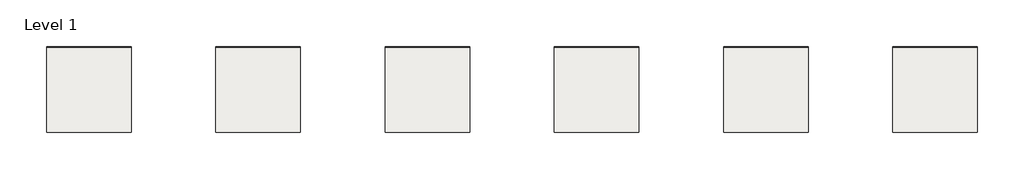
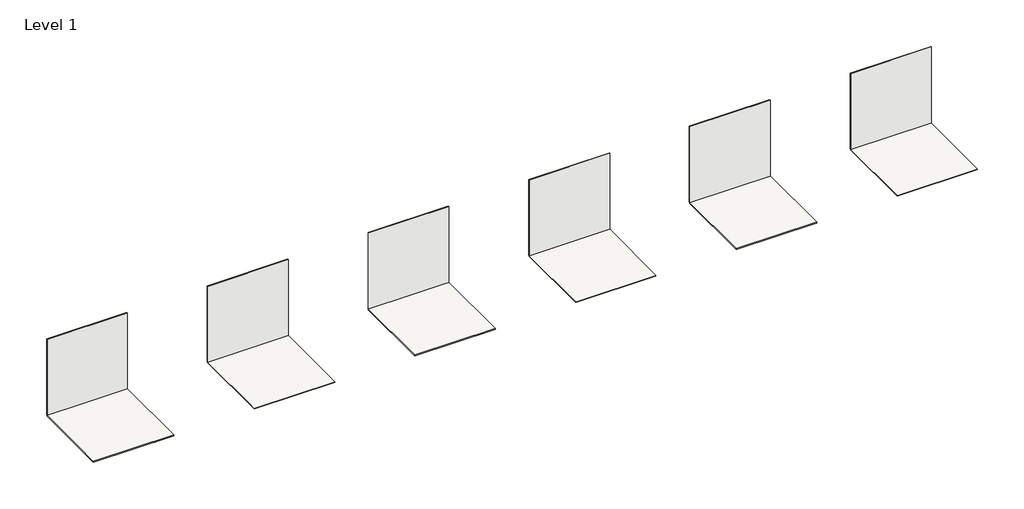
# One storey: 12 coverings.
"""IFC4 building model written with IfcOpenShell, lengths in millimetres."""

from ifc_helpers import new_model, si_unit, frame, origin, origin_with_axes, place, context, project, spatial, polyline, outline, extrude, element, save

model = new_model("IFC4")

# Units and contexts
model_context = context("Model", 3, world=origin())
ifc_project = project(units=[si_unit("LENGTHUNIT", "METRE", prefix="MILLI")], contexts=[model_context])

# Site, building, storey
site = spatial("IfcSite", under=ifc_project)
building = spatial("IfcBuilding", under=site)
storey = spatial("IfcBuildingStorey", under=building, Name="Level 1", Elevation=0.0)

# Coverings
placement = place(None, origin())
element("IfcCovering", 1, ObjectType="REVIGRÉS-OMNISTONE-MOLTI-30X30-MATTRECT-BONE", at=placement, inside=storey, context=model_context, shape_type="SweptSolid", body=[
    extrude(outline(polyline([(78208.2238844, 17811.2034686), (77208.2238844, 17811.2034686), (77208.2238844, 18811.2034686), (78208.2238844, 18811.2034686), (78208.2238844, 17811.2034686)])), frame((0.0, 0.0, -9.8), z_axis=(0.0, 0.0, 1.0), x_axis=(1.0, 0.0, 0.0)), (0.0, 0.0, 1.0), 9.8),
])
element("IfcCovering", 2, ObjectType="REVIGRÉS-OMNISTONE-MOLTI-30X30-MATTRECT-BONE", at=placement, inside=storey, context=model_context, shape_type="SweptSolid", body=[
    extrude(outline(polyline([(78208.2238844, 18811.2034686), (77208.2238844, 18811.2034686), (77208.2238844, 18821.0034686), (78208.2238844, 18821.0034686), (78208.2238844, 18811.2034686)])), origin_with_axes(), (0.0, 0.0, 1.0), 1000.0),
])
element("IfcCovering", 3, ObjectType="REVIGRÉS-OMNISTONE-MOLTI-30X30-MATTRECT-ICE", at=placement, inside=storey, context=model_context, shape_type="SweptSolid", body=[
    extrude(outline(polyline([(80208.2238844, 17811.2034686), (79208.2238844, 17811.2034686), (79208.2238844, 18811.2034686), (80208.2238844, 18811.2034686), (80208.2238844, 17811.2034686)])), frame((0.0, 0.0, -9.8), z_axis=(0.0, 0.0, 1.0), x_axis=(1.0, 0.0, 0.0)), (0.0, 0.0, 1.0), 9.8),
])
element("IfcCovering", 4, ObjectType="REVIGRÉS-OMNISTONE-MOLTI-30X30-MATTRECT-ICE", at=placement, inside=storey, context=model_context, shape_type="SweptSolid", body=[
    extrude(outline(polyline([(80208.2238844, 18811.2034686), (79208.2238844, 18811.2034686), (79208.2238844, 18821.0034686), (80208.2238844, 18821.0034686), (80208.2238844, 18811.2034686)])), origin_with_axes(), (0.0, 0.0, 1.0), 1000.0),
])
element("IfcCovering", 5, ObjectType="REVIGRÉS-OMNISTONE-MOLTI-30X30-MATTRECT-IRON", at=placement, inside=storey, context=model_context, shape_type="SweptSolid", body=[
    extrude(outline(polyline([(82208.2238844, 17811.2034686), (81208.2238844, 17811.2034686), (81208.2238844, 18811.2034686), (82208.2238844, 18811.2034686), (82208.2238844, 17811.2034686)])), frame((0.0, 0.0, -9.8), z_axis=(0.0, 0.0, 1.0), x_axis=(1.0, 0.0, 0.0)), (0.0, 0.0, 1.0), 9.8),
])
element("IfcCovering", 6, ObjectType="REVIGRÉS-OMNISTONE-MOLTI-30X30-MATTRECT-IRON", at=placement, inside=storey, context=model_context, shape_type="SweptSolid", body=[
    extrude(outline(polyline([(82208.2238844, 18811.2034686), (81208.2238844, 18811.2034686), (81208.2238844, 18821.0034686), (82208.2238844, 18821.0034686), (82208.2238844, 18811.2034686)])), origin_with_axes(), (0.0, 0.0, 1.0), 1000.0),
])
element("IfcCovering", 7, ObjectType="REVIGRÉS-OMNISTONE-MOLTI-30X30-MATTRECT-JET", at=placement, inside=storey, context=model_context, shape_type="SweptSolid", body=[
    extrude(outline(polyline([(84208.2238844, 17811.2034686), (83208.2238844, 17811.2034686), (83208.2238844, 18811.2034686), (84208.2238844, 18811.2034686), (84208.2238844, 17811.2034686)])), frame((0.0, 0.0, -9.8), z_axis=(0.0, 0.0, 1.0), x_axis=(1.0, 0.0, 0.0)), (0.0, 0.0, 1.0), 9.8),
])
element("IfcCovering", 8, ObjectType="REVIGRÉS-OMNISTONE-MOLTI-30X30-MATTRECT-JET", at=placement, inside=storey, context=model_context, shape_type="SweptSolid", body=[
    extrude(outline(polyline([(84208.2238844, 18811.2034686), (83208.2238844, 18811.2034686), (83208.2238844, 18821.0034686), (84208.2238844, 18821.0034686), (84208.2238844, 18811.2034686)])), origin_with_axes(), (0.0, 0.0, 1.0), 1000.0),
])
element("IfcCovering", 9, ObjectType="REVIGRÉS-OMNISTONE-MOLTI-30X30-MATTRECT-PLATINA", at=placement, inside=storey, context=model_context, shape_type="SweptSolid", body=[
    extrude(outline(polyline([(86208.2238844, 17811.2034686), (85208.2238844, 17811.2034686), (85208.2238844, 18811.2034686), (86208.2238844, 18811.2034686), (86208.2238844, 17811.2034686)])), frame((0.0, 0.0, -9.8), z_axis=(0.0, 0.0, 1.0), x_axis=(1.0, 0.0, 0.0)), (0.0, 0.0, 1.0), 9.8),
])
element("IfcCovering", 10, ObjectType="REVIGRÉS-OMNISTONE-MOLTI-30X30-MATTRECT-PLATINA", at=placement, inside=storey, context=model_context, shape_type="SweptSolid", body=[
    extrude(outline(polyline([(86208.2238844, 18811.2034686), (85208.2238844, 18811.2034686), (85208.2238844, 18821.0034686), (86208.2238844, 18821.0034686), (86208.2238844, 18811.2034686)])), origin_with_axes(), (0.0, 0.0, 1.0), 1000.0),
])
element("IfcCovering", 11, ObjectType="REVIGRÉS-OMNISTONE-MOLTI-30X30-MATTRECT-ROPE", at=placement, inside=storey, context=model_context, shape_type="SweptSolid", body=[
    extrude(outline(polyline([(88208.2238844, 17811.2034686), (87208.2238844, 17811.2034686), (87208.2238844, 18811.2034686), (88208.2238844, 18811.2034686), (88208.2238844, 17811.2034686)])), frame((0.0, 0.0, -9.8), z_axis=(0.0, 0.0, 1.0), x_axis=(1.0, 0.0, 0.0)), (0.0, 0.0, 1.0), 9.8),
])
element("IfcCovering", 12, ObjectType="REVIGRÉS-OMNISTONE-MOLTI-30X30-MATTRECT-ROPE", at=placement, inside=storey, context=model_context, shape_type="SweptSolid", body=[
    extrude(outline(polyline([(88208.2238844, 18811.2034686), (87208.2238844, 18811.2034686), (87208.2238844, 18821.0034686), (88208.2238844, 18821.0034686), (88208.2238844, 18811.2034686)])), origin_with_axes(), (0.0, 0.0, 1.0), 1000.0),
])

save(model, "model.ifc")
